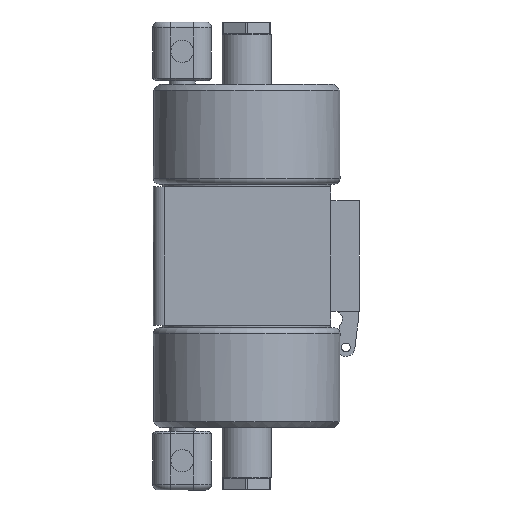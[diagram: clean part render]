
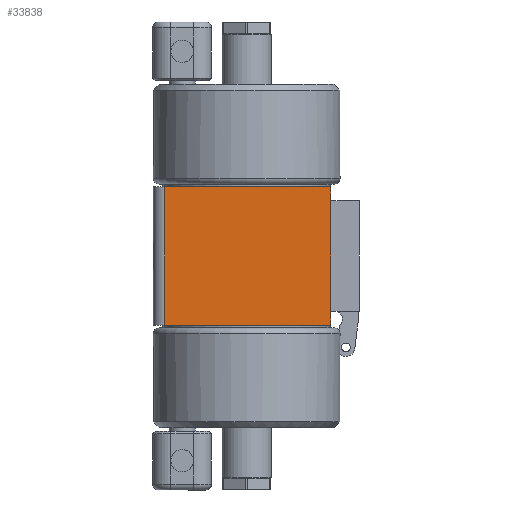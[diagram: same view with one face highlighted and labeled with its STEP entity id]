
A CAD part, left-side view. The second image highlights one B-rep face of the part: STEP entity #33838.
In plain terms, the highlighted planar face has unit normal (-1, 0, 0).
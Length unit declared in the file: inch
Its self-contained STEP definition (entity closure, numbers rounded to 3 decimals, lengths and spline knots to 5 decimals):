
#1003 = VERTEX_POINT ( 'NONE', #21197 ) ;
#1263 = VERTEX_POINT ( 'NONE', #21567 ) ;
#1659 = FACE_OUTER_BOUND ( 'NONE', #8982, .T. ) ;
#2040 = CARTESIAN_POINT ( 'NONE',  ( -1.868, 2.069, -1.538 ) ) ;
#2056 = DIRECTION ( 'NONE',  ( 0., -1., 0. ) ) ;
#3205 = DIRECTION ( 'NONE',  ( 0., 0., -1. ) ) ;
#3230 = CARTESIAN_POINT ( 'NONE',  ( -1.868, -1.868, 1.538 ) ) ;
#4192 = CARTESIAN_POINT ( 'NONE',  ( -1.868, 1.819, -1.538 ) ) ;
#4291 = DIRECTION ( 'NONE',  ( 0., 0., -1. ) ) ;
#8982 = EDGE_LOOP ( 'NONE', ( #40149, #10031, #9780, #10036, #40356, #40361 ) ) ;
#9223 = CARTESIAN_POINT ( 'NONE',  ( -1.868, 2.069, 1.538 ) ) ;
#9225 = PLANE ( 'NONE',  #21226 ) ;
#9227 = DIRECTION ( 'NONE',  ( 1., 0., 0. ) ) ;
#9228 = DIRECTION ( 'NONE',  ( 0., 1., 0. ) ) ;
#9780 = ORIENTED_EDGE ( 'NONE', *, *, #12014, .F. ) ;
#10031 = ORIENTED_EDGE ( 'NONE', *, *, #12260, .T. ) ;
#10036 = ORIENTED_EDGE ( 'NONE', *, *, #12157, .F. ) ;
#12014 = EDGE_CURVE ( 'NONE', #36487, #1263, #25799, .T. ) ;
#12056 = EDGE_CURVE ( 'NONE', #36620, #36631, #25865, .T. ) ;
#12060 = EDGE_CURVE ( 'NONE', #1003, #36552, #25872, .T. ) ;
#12157 = EDGE_CURVE ( 'NONE', #36631, #36487, #26019, .T. ) ;
#12172 = EDGE_CURVE ( 'NONE', #1003, #36620, #26046, .T. ) ;
#12260 = EDGE_CURVE ( 'NONE', #36552, #1263, #26181, .T. ) ;
#16521 = CARTESIAN_POINT ( 'NONE',  ( -1.868, -1.868, -1.23 ) ) ;
#21197 = CARTESIAN_POINT ( 'NONE',  ( -1.868, 1.819, 1.538 ) ) ;
#21226 = AXIS2_PLACEMENT_3D ( 'NONE', #9223, #9227, #9228 ) ;
#21567 = CARTESIAN_POINT ( 'NONE',  ( -1.868, -1.868, -1.538 ) ) ;
#23019 = DIRECTION ( 'NONE',  ( 0., 0., -1. ) ) ;
#23029 = CARTESIAN_POINT ( 'NONE',  ( -1.868, -1.868, 1.538 ) ) ;
#25799 = LINE ( 'NONE', #3230, #25802 ) ;
#25802 = VECTOR ( 'NONE', #3205, 39.37008 ) ;
#25865 = LINE ( 'NONE', #23029, #25867 ) ;
#25867 = VECTOR ( 'NONE', #23019, 39.37008 ) ;
#25872 = LINE ( 'NONE', #4192, #25873 ) ;
#25873 = VECTOR ( 'NONE', #4291, 39.37008 ) ;
#26019 = LINE ( 'NONE', #31758, #26025 ) ;
#26025 = VECTOR ( 'NONE', #31739, 39.37008 ) ;
#26046 = LINE ( 'NONE', #31577, #26049 ) ;
#26049 = VECTOR ( 'NONE', #31561, 39.37008 ) ;
#26181 = LINE ( 'NONE', #2040, #26184 ) ;
#26184 = VECTOR ( 'NONE', #2056, 39.37008 ) ;
#31561 = DIRECTION ( 'NONE',  ( 0., -1., 0. ) ) ;
#31577 = CARTESIAN_POINT ( 'NONE',  ( -1.868, 2.069, 1.538 ) ) ;
#31739 = DIRECTION ( 'NONE',  ( 0., 0., -1. ) ) ;
#31758 = CARTESIAN_POINT ( 'NONE',  ( -1.868, -1.868, 1.538 ) ) ;
#33838 = ADVANCED_FACE ( 'NONE', ( #1659 ), #9225, .F. ) ;
#36487 = VERTEX_POINT ( 'NONE', #16521 ) ;
#36552 = VERTEX_POINT ( 'NONE', #37445 ) ;
#36620 = VERTEX_POINT ( 'NONE', #37521 ) ;
#36631 = VERTEX_POINT ( 'NONE', #37537 ) ;
#37445 = CARTESIAN_POINT ( 'NONE',  ( -1.868, 1.819, -1.538 ) ) ;
#37521 = CARTESIAN_POINT ( 'NONE',  ( -1.868, -1.868, 1.538 ) ) ;
#37537 = CARTESIAN_POINT ( 'NONE',  ( -1.868, -1.868, 1.23 ) ) ;
#40149 = ORIENTED_EDGE ( 'NONE', *, *, #12060, .T. ) ;
#40356 = ORIENTED_EDGE ( 'NONE', *, *, #12056, .F. ) ;
#40361 = ORIENTED_EDGE ( 'NONE', *, *, #12172, .F. ) ;
